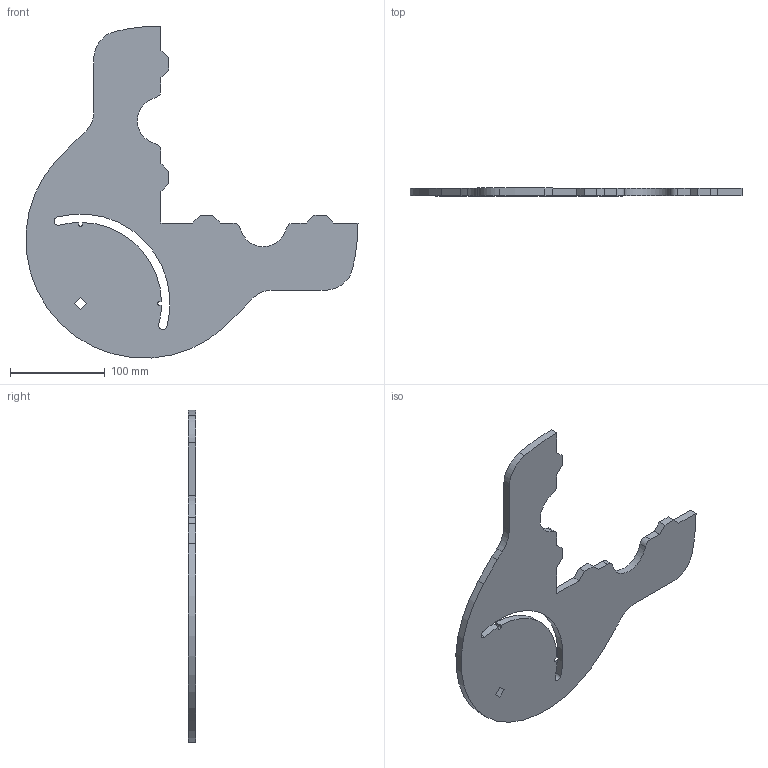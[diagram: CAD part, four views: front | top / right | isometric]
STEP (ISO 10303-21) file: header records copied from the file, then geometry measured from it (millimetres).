
FILE_DESCRIPTION(/* description */ (''),/* implementation_level */ '2;1');
FILE_NAME(/* name */ 'Part_2_ver1.step',/* time_stamp */ '2026-07-24T14:37:04+02:00',/* author */ ('dariu'),/* organization */ (''),/* preprocessor_version */ 'ST-DEVELOPER v20.1',/* originating_system */ 'Autodesk Inventor 2026',/* authorisation */ '');
FILE_SCHEMA (('AUTOMOTIVE_DESIGN { 1 0 10303 214 3 1 1 }'));
Length unit declared in the file: millimetre
Products named in the file (1): Part_2_ver1
Bounding box: 350.52 x 8 x 350.52 mm (x, y, z)
Volume: 415828.7 mm3; surface area: 117917.1 mm2
Topology: 1 solids, 1 shells, 57 faces, 165 edges, 110 vertices
Faces by surface type: plane 34, cylinder 23
Entity records: 1936 total; most frequent: CARTESIAN_POINT 333, ORIENTED_EDGE 330, DIRECTION 327, EDGE_CURVE 165, LINE 119, VECTOR 119, VERTEX_POINT 110, AXIS2_PLACEMENT_3D 104
